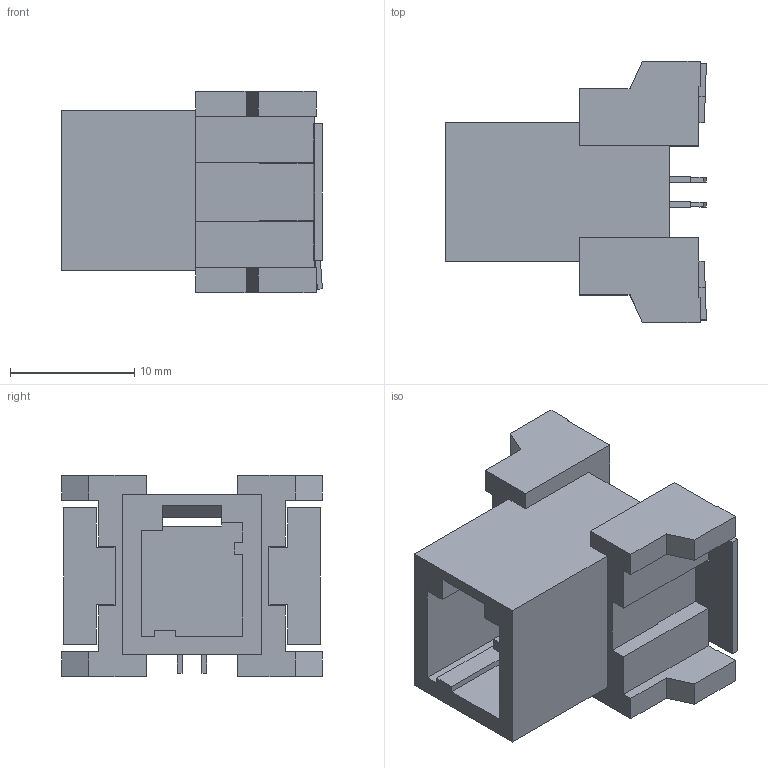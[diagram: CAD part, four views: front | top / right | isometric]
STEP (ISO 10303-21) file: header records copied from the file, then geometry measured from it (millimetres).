
FILE_DESCRIPTION(('CATIA V5 STEP','CAx-IF Rec.Pracs.--- Model Styling and Organization---1.4--- 2014-01-23'),'2;1');
FILE_NAME('\\fs0427\Server\共有情報\コネクタ開発部\特命業務\特ｰ35ｰ部品総合カタログメンテナンス\21年度\掲載用３Dモデル\ETHERNET\ETHERNET３D(トヨタ提出していないものがあるのでチェックしてください）\6910-8248.stp','2023-04-05T23:59:22+00:00',('none'),('none'),'CATIA Version 5-6 Release 2017 SP5 HF58','CATIA V5 STEP AP214','none');
FILE_SCHEMA(('AUTOMOTIVE_DESIGN { 1 0 10303 214 1 1 1 1 }'));
Length unit declared in the file: millimetre
Products named in the file (1): 6910-8248
Bounding box: 21 x 21 x 16.2 mm (x, y, z)
Volume: 2321.5 mm3; surface area: 2724.6 mm2
Topology: 1 solids, 1 shells, 136 faces, 395 edges, 262 vertices
Faces by surface type: plane 136
Entity records: 4247 total; most frequent: ORIENTED_EDGE 790, CARTESIAN_POINT 747, DIRECTION 573, VECTOR 395, EDGE_CURVE 395, LINE 395, VERTEX_POINT 262, EDGE_LOOP 139
